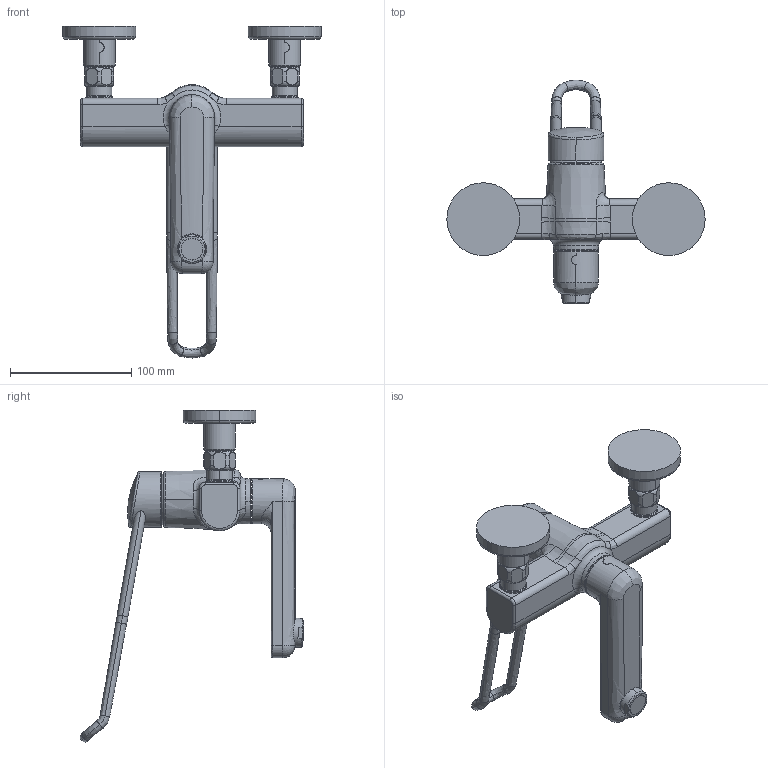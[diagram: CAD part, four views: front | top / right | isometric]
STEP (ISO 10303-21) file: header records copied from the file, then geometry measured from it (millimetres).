
FILE_DESCRIPTION((''),'2;1');
FILE_NAME('11522092','2020-08-04T15:47:03',('SN986'),(''),'CREO PARAMETRIC BY PTC INC, 2018500','CREO PARAMETRIC BY PTC INC, 2018500','');
FILE_SCHEMA(('CONFIG_CONTROL_DESIGN'));
Length unit declared in the file: millimetre
Products named in the file (1): 11522092
Bounding box: 213 x 184.72 x 273.86 mm (x, y, z)
Volume: 587212.8 mm3; surface area: 87283.5 mm2
Topology: 4 solids, 4 shells, 225 faces, 517 edges, 311 vertices
Faces by surface type: cylinder 63, torus 53, plane 46, bspline 46, cone 12, sphere 5
Entity records: 12244 total; most frequent: CARTESIAN_POINT 7406, ORIENTED_EDGE 1034, DIRECTION 963, EDGE_CURVE 517, AXIS2_PLACEMENT_3D 425, VERTEX_POINT 311, CIRCLE 246, EDGE_LOOP 238
